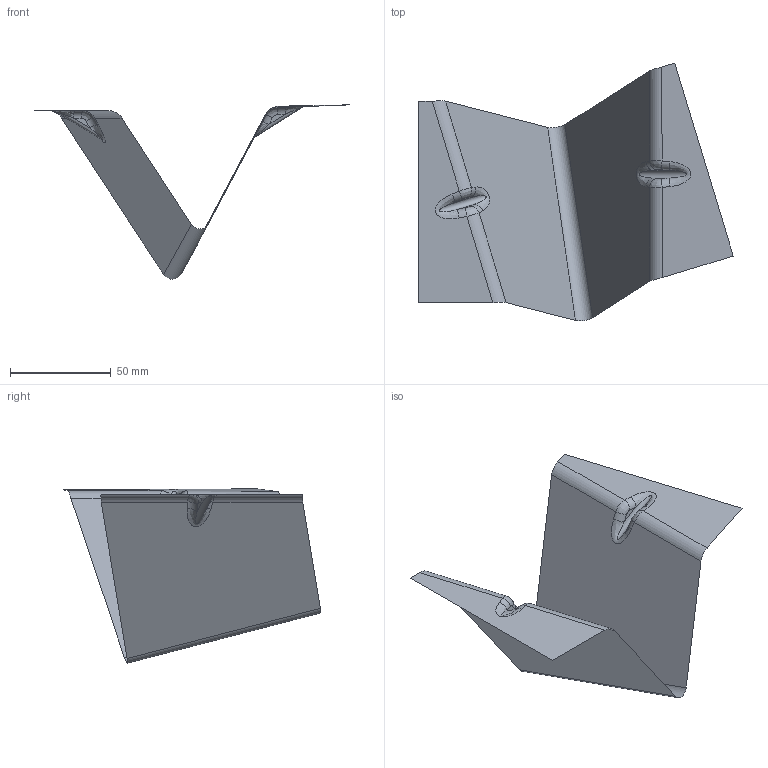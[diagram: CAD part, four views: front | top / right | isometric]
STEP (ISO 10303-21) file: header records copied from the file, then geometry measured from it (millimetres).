
FILE_DESCRIPTION(('CATIA V5 STEP Exchange'),'2;1');
FILE_NAME('C:\_Andres\UNIVERSIDAD\IQS\ASIGNATURAS\DAO\EXF\EXF-16172c\2inicio\Gumá_Abizanda_Ej03_v13.stp','2017-03-05T19:32:15+00:00',('none'),('none'),'CATIA Version 5-6 Release 2014 SP1 HF18','CATIA V5 STEP AP203','none');
FILE_SCHEMA(('CONFIG_CONTROL_DESIGN'));
Length unit declared in the file: millimetre
Products named in the file (1): Gumá_Abizanda_Ej03_v13
Bounding box: 156.07 x 127.74 x 86.46 mm (x, y, z)
Surface area: 22892.6 mm2 (no closed solid volume)
Topology: 0 solids, 1 shells, 31 faces, 78 edges, 48 vertices
Faces by surface type: cylinder 15, plane 8, bspline 8
Entity records: 2461 total; most frequent: CARTESIAN_POINT 1788, ORIENTED_EDGE 140, DIRECTION 90, EDGE_CURVE 78, VERTEX_POINT 48, VECTOR 40, LINE 40, ADVANCED_FACE 31
